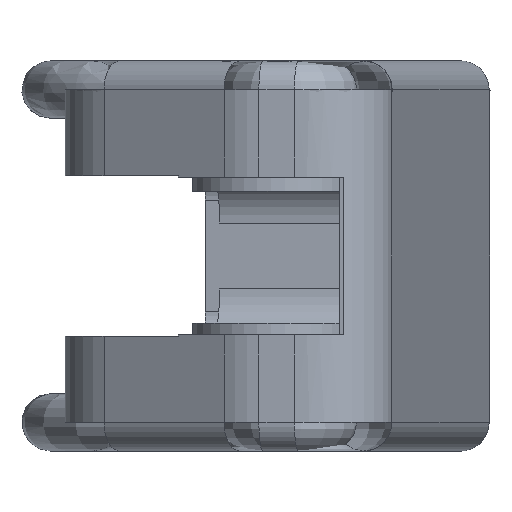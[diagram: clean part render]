
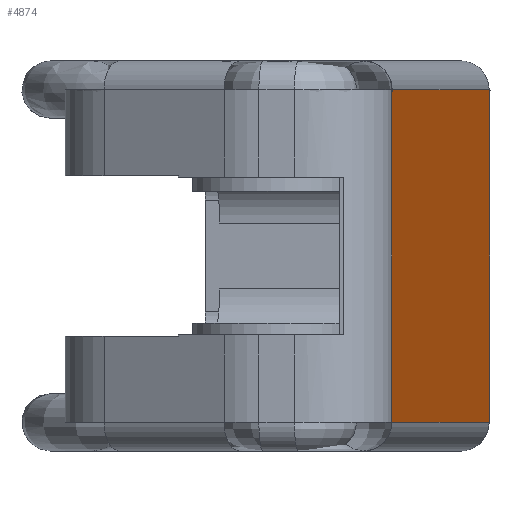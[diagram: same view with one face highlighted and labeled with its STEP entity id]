
A CAD part, front view. The second image highlights one B-rep face of the part: STEP entity #4874.
In plain terms, the highlighted planar face has unit normal (0.99, -0.143, 0).
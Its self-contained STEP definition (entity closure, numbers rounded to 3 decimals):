
#4389=CARTESIAN_POINT('',(77.222,96.192,11.6));
#4390=VERTEX_POINT('',#4389);
#4485=CARTESIAN_POINT('',(77.222,96.192,-11.6));
#4486=VERTEX_POINT('',#4485);
#4695=CARTESIAN_POINT('',(70.439,49.159,-11.6));
#4696=VERTEX_POINT('',#4695);
#4716=CARTESIAN_POINT('',(70.439,49.159,11.6));
#4717=VERTEX_POINT('',#4716);
#4793=CARTESIAN_POINT('',(70.439,49.159,11.6));
#4794=DIRECTION('',(-0.143,-0.99,0.));
#4795=VECTOR('',#4794,1.);
#4796=LINE('',#4793,#4795);
#4797=EDGE_CURVE('',#4717,#4390,#4796,.F.);
#4815=CARTESIAN_POINT('',(77.222,96.192,13.6));
#4816=DIRECTION('',(0.,0.,1.));
#4817=VECTOR('',#4816,1.);
#4818=LINE('',#4815,#4817);
#4819=EDGE_CURVE('',#4390,#4486,#4818,.F.);
#4833=CARTESIAN_POINT('',(70.439,49.159,-11.6));
#4834=DIRECTION('',(-0.143,-0.99,0.));
#4835=VECTOR('',#4834,1.);
#4836=LINE('',#4833,#4835);
#4837=EDGE_CURVE('',#4486,#4696,#4836,.T.);
#4853=CARTESIAN_POINT('',(70.439,49.159,13.6));
#4854=DIRECTION('',(0.,0.,1.));
#4855=VECTOR('',#4854,1.);
#4856=LINE('',#4853,#4855);
#4857=EDGE_CURVE('',#4696,#4717,#4856,.T.);
#4863=CARTESIAN_POINT('',(70.439,49.159,13.6));
#4864=DIRECTION('',(-0.99,0.143,0.));
#4865=DIRECTION('',(-0.143,-0.99,0.));
#4866=AXIS2_PLACEMENT_3D('',#4863,#4864,#4865);
#4867=PLANE('',#4866);
#4868=ORIENTED_EDGE('',*,*,#4837,.F.);
#4869=ORIENTED_EDGE('',*,*,#4819,.F.);
#4870=ORIENTED_EDGE('',*,*,#4797,.F.);
#4871=ORIENTED_EDGE('',*,*,#4857,.F.);
#4872=EDGE_LOOP('',(#4868,#4869,#4870,#4871));
#4873=FACE_OUTER_BOUND('',#4872,.T.);
#4874=ADVANCED_FACE('',(#4873),#4867,.F.);
